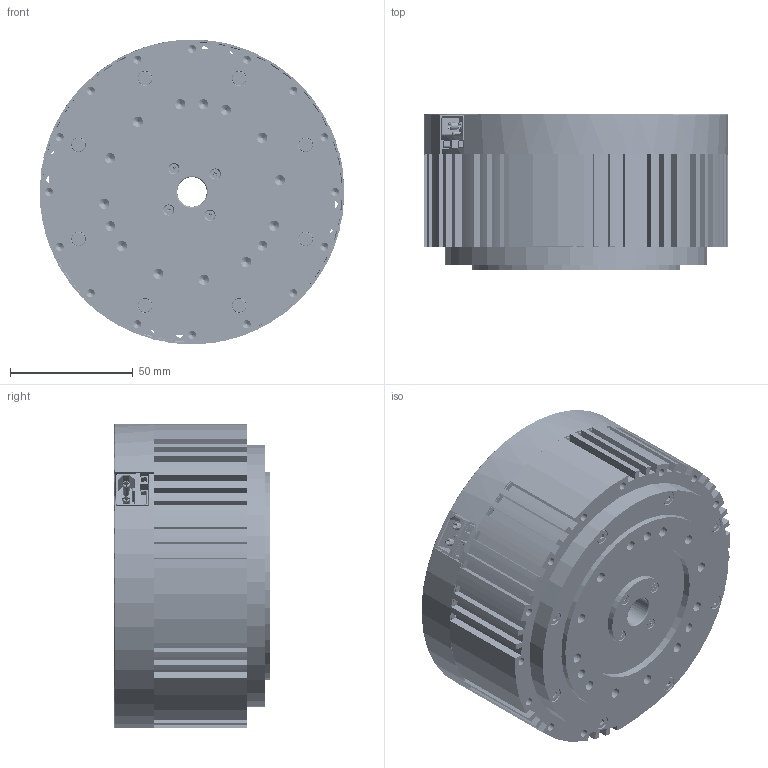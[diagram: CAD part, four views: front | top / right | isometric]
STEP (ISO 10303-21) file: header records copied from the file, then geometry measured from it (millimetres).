
FILE_DESCRIPTION (( 'STEP AP203' ), '1' );
FILE_NAME ('RMD-X10-P20-200-E 外形图.STEP', '2026-09-19T03:28:10', ( '微软用户' ), ( '微软中国' ), 'SwSTEP 2.0', 'SolidWorks 2020', '' );
FILE_SCHEMA (( 'CONFIG_CONTROL_DESIGN' ));
Length unit declared in the file: millimetre
Products named in the file (13): XMT.112.022-______-A1.STEP.STEP.STEP; X10-P20-200 驱动板; 8MT.034.039-________ C.STEP.STEP.STEP; RMD-X10-P20-200-E 俋倛芞; GB_uT 70.3______________M4x14.STEP.STEP; GB_uT70.3[______________M2__3]_M2__3.STEP.STEP.STEP; XMT.110.012-____________ B.STEP.STEP.STEP; ______________M3X12.STEP.STEP; XMT.109.036-________-A2.STEP.STEP.STEP; __________.STEP.STEP.STEP; ____M2.5__8.STEP.STEP.STEP; 8MT.013.211-____ A4.STEP.STEP.STEP; 8MT.013.163-__________ A3.STEP.STEP.STEP
Assembly tree (32 placements, depth 3):
  RMD-X10-P20-200-E 俋倛芞
    __________.STEP.STEP.STEP
      XMT.109.036-________-A2.STEP.STEP.STEP
    8MT.013.163-__________ A3.STEP.STEP.STEP
    8MT.013.211-____ A4.STEP.STEP.STEP
    8MT.034.039-________ C.STEP.STEP.STEP
    ____M2.5__8.STEP.STEP.STEP  x8
    XMT.110.012-____________ B.STEP.STEP.STEP
    XMT.112.022-______-A1.STEP.STEP.STEP
    GB_uT70.3[______________M2__3]_M2__3.STEP.STEP.STEP  x4
    GB_uT 70.3______________M4x14.STEP.STEP  x4
    ______________M3X12.STEP.STEP  x8
    X10-P20-200 驱动板
Bounding box: 123.98 x 63.5 x 123.99 mm (x, y, z)
Volume: 171554 mm3; surface area: 165643.6 mm2
Topology: 30 solids, 356 shells, 6439 faces, 19256 edges, 13167 vertices
Faces by surface type: cylinder 3588, plane 1893, bspline 498, cone 326, torus 126, sphere 8
Entity records: 261307 total; most frequent: CARTESIAN_POINT 120594, ORIENTED_EDGE 33709, EDGE_CURVE 18242, DIRECTION 16505, B_SPLINE_CURVE_WITH_KNOTS 14654, VERTEX_POINT 12627, EDGE_LOOP 8985, AXIS2_PLACEMENT_3D 7342
